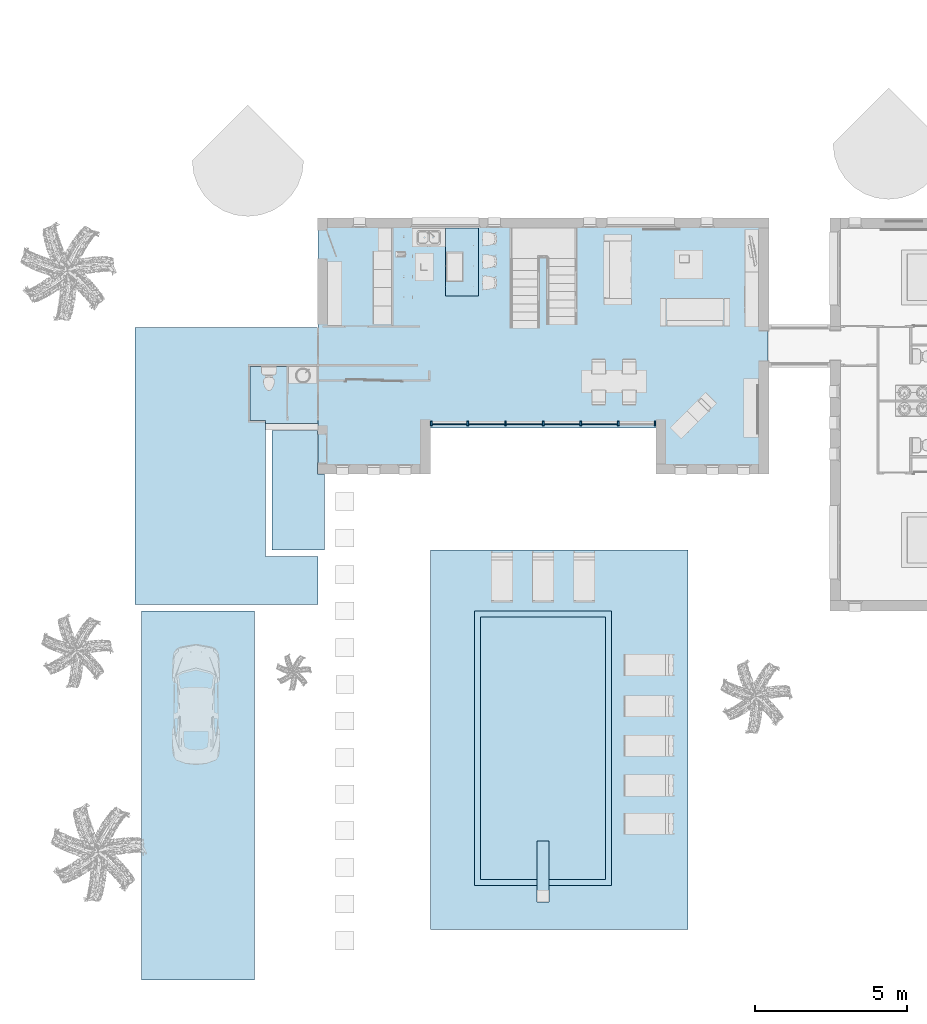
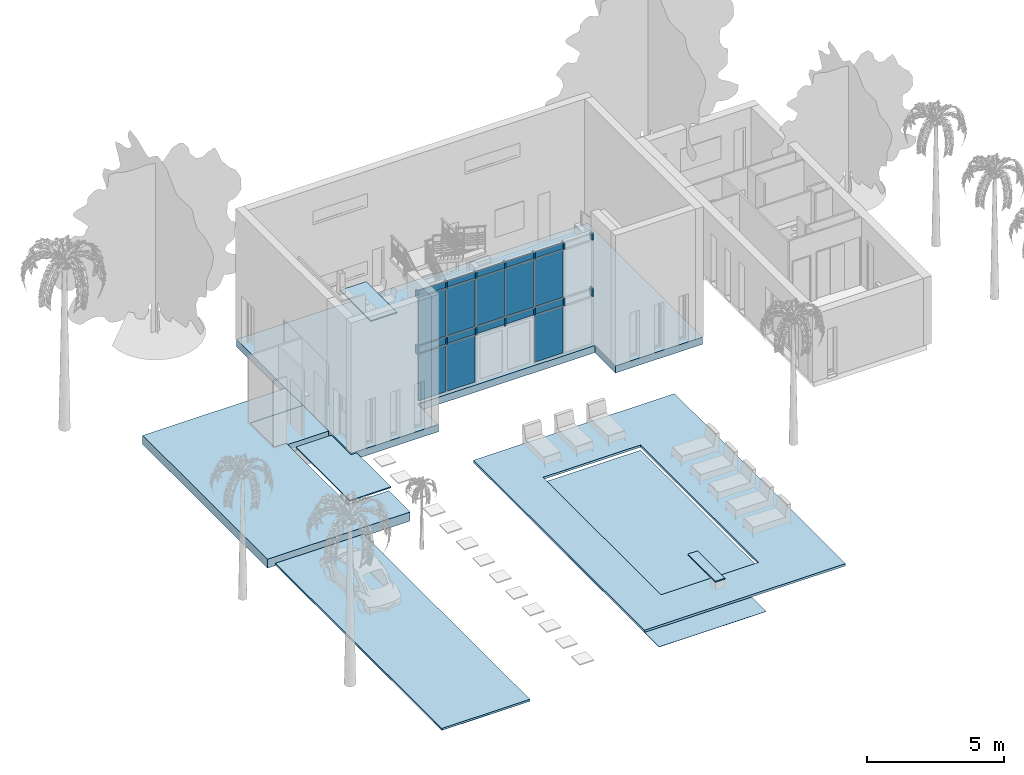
# One storey, part 2 of 40: 18 plates, 14 members, 11 slabs, 1 opening, 1 element without a shape of its own.
"""IFC2X3 building model written with IfcOpenShell, lengths in metres."""

from ifc_helpers import new_model, entity, si_unit, converted_unit, derived_unit, direction, frame, frame_2d, origin, origin_2d_with_axis, place, context, subcontext, project, spatial, polyline, rectangle, outline, extrude, source, transform, mapped, material, layer, layer_set, layer_usage, type_object, type_shapes, element, aggregate, save


model = new_model("IFC2X3")

# Units and contexts
model_context = context("Model", 3, precision=1e-05, world=origin(), true_north=direction((6.12303176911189e-17, 1.0)))
body_context = subcontext(model_context, "Body", "Model", "MODEL_VIEW")
ifc_project = project(units=[si_unit("LENGTHUNIT", "METRE"), si_unit("AREAUNIT", "SQUARE_METRE"), si_unit("VOLUMEUNIT", "CUBIC_METRE"), converted_unit("PLANEANGLEUNIT", "DEGREE", entity("IfcRatioMeasure", 0.0174532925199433), si_unit("PLANEANGLEUNIT", "RADIAN"), dimensions=[0, 0, 0, 0, 0, 0, 0]), si_unit("MASSUNIT", "GRAM", prefix="KILO"), derived_unit("MASSDENSITYUNIT", [(si_unit("MASSUNIT", "GRAM", prefix="KILO"), 1), (si_unit("LENGTHUNIT", "METRE"), -3)]), si_unit("TIMEUNIT", "SECOND"), si_unit("FREQUENCYUNIT", "HERTZ"), si_unit("THERMODYNAMICTEMPERATUREUNIT", "DEGREE_CELSIUS"), derived_unit("THERMALTRANSMITTANCEUNIT", [(si_unit("MASSUNIT", "GRAM", prefix="KILO"), 1), (si_unit("THERMODYNAMICTEMPERATUREUNIT", "KELVIN"), -1), (si_unit("TIMEUNIT", "SECOND"), -3)]), derived_unit("VOLUMETRICFLOWRATEUNIT", [(si_unit("LENGTHUNIT", "METRE"), 3), (si_unit("TIMEUNIT", "SECOND"), -1)]), si_unit("ELECTRICCURRENTUNIT", "AMPERE"), si_unit("ELECTRICVOLTAGEUNIT", "VOLT"), si_unit("POWERUNIT", "WATT"), si_unit("FORCEUNIT", "NEWTON", prefix="KILO"), si_unit("ILLUMINANCEUNIT", "LUX"), si_unit("LUMINOUSFLUXUNIT", "LUMEN"), si_unit("LUMINOUSINTENSITYUNIT", "CANDELA"), derived_unit("USERDEFINED", [(si_unit("MASSUNIT", "GRAM", prefix="KILO"), -1), (si_unit("LENGTHUNIT", "METRE"), -2), (si_unit("TIMEUNIT", "SECOND"), 3), (si_unit("LUMINOUSFLUXUNIT", "LUMEN"), 1)]), derived_unit("LINEARVELOCITYUNIT", [(si_unit("LENGTHUNIT", "METRE"), 1), (si_unit("TIMEUNIT", "SECOND"), -1)]), si_unit("PRESSUREUNIT", "PASCAL"), derived_unit("USERDEFINED", [(si_unit("LENGTHUNIT", "METRE"), -2), (si_unit("MASSUNIT", "GRAM", prefix="KILO"), 1), (si_unit("TIMEUNIT", "SECOND"), -2)])], contexts=[model_context])

# Site, building, storey
site_placement = place(None, origin())
site = spatial("IfcSite", under=ifc_project, at=site_placement, Name="Surface", CompositionType="ELEMENT")
building_placement = place(site_placement, origin())
building = spatial("IfcBuilding", under=site, at=building_placement, CompositionType="ELEMENT")
storey_placement = place(building_placement, origin())
storey = spatial("IfcBuildingStorey", under=building, at=storey_placement, Name="RDC", CompositionType="ELEMENT", Elevation=-1.0941605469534e-13)

# Curtain wall, members, plates
curtain_wall_type = type_object("IfcCurtainWallType", Name="Mur-rideau:Simple panneau", PredefinedType="NOTDEFINED")
curtain_wall_placement = place(storey_placement, origin())
curtain_wall = element("IfcCurtainWall", 1, at=curtain_wall_placement, inside=storey, type_object=curtain_wall_type, Name="Mur-rideau:Simple panneau", ObjectType="Mur-rideau:Simple panneau")
ifc_material_1 = material(Name="Plastique, blanc opaque")
member_type_1 = type_object("IfcMemberType", Name="80 x 150", PredefinedType="MEMBER")
shared_shape_1 = source(origin(), body_context, "Body", "SweptSolid", [
    extrude(rectangle(XDim=0.15, YDim=0.06, at=origin_2d_with_axis()), frame((-0.03, 0.0, -0.35), z_axis=(0.0, 0.0, 1.0), x_axis=(0.0, -1.0, 0.0)), (0.0, 0.0, 1.0), 0.35),
])
type_shapes(member_type_1, [shared_shape_1])
member_1_placement = place(storey_placement, frame((-1.3024888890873, 1.13701067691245, 2.49999999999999), z_axis=(0.0, 0.0, 1.0), x_axis=(-1.0, 0.0, 0.0)))
member_1 = element("IfcMember", 2, at=member_1_placement, type_object=member_type_1, material=ifc_material_1, Name="Meneau rectangulaire:80 x 150", ObjectType="80 x 150", context=body_context, shape_type="MappedRepresentation", body=[
    mapped(shared_shape_1, transform((0.0, 0.0, 0.0), scale=1.0)),
])
member_type_2 = type_object("IfcMemberType", Name="80 x 150", PredefinedType="MEMBER")
shared_shape_2 = source(origin(), body_context, "Body", "SweptSolid", [
    extrude(rectangle(XDim=0.15, YDim=0.06, at=origin_2d_with_axis()), frame((-0.03, 0.0, -0.29), z_axis=(0.0, 0.0, 1.0), x_axis=(0.0, -1.0, 0.0)), (0.0, 0.0, 1.0), 0.29),
])
type_shapes(member_type_2, [shared_shape_2])
member_2_placement = place(storey_placement, frame((-1.3024888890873, 1.13701067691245, 4.93999999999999), z_axis=(0.0, 0.0, 1.0), x_axis=(-1.0, 0.0, 0.0)))
member_2 = element("IfcMember", 3, at=member_2_placement, type_object=member_type_2, material=ifc_material_1, Name="Meneau rectangulaire:80 x 150", ObjectType="80 x 150", context=body_context, shape_type="MappedRepresentation", body=[
    mapped(shared_shape_2, transform((0.0, 0.0, 0.0), scale=1.0)),
])
member_type_3 = type_object("IfcMemberType", Name="80 x 150", PredefinedType="MEMBER")
shared_shape_3 = source(origin(), body_context, "Body", "SweptSolid", [
    extrude(rectangle(XDim=0.15, YDim=0.06, at=origin_2d_with_axis()), frame((0.0, 0.0, -0.29), z_axis=(0.0, 0.0, 1.0), x_axis=(0.0, -1.0, 0.0)), (0.0, 0.0, 1.0), 0.29),
])
type_shapes(member_type_3, [shared_shape_3])
member_3_placement = place(storey_placement, frame((-0.0691555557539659, 1.13701067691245, 4.64999999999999), z_axis=(0.0, 0.0, -1.0), x_axis=(1.0, 0.0, 0.0)))
member_3 = element("IfcMember", 4, at=member_3_placement, type_object=member_type_3, material=ifc_material_1, Name="Meneau rectangulaire:80 x 150", ObjectType="80 x 150", context=body_context, shape_type="MappedRepresentation", body=[
    mapped(shared_shape_3, transform((0.0, 0.0, 0.0), scale=1.0)),
])
member_4_placement = place(storey_placement, frame((1.16417777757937, 1.13701067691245, 4.64999999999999), z_axis=(0.0, 0.0, -1.0), x_axis=(1.0, 0.0, 0.0)))
member_4 = element("IfcMember", 5, at=member_4_placement, type_object=member_type_3, material=ifc_material_1, Name="Meneau rectangulaire:80 x 150", ObjectType="80 x 150", context=body_context, shape_type="MappedRepresentation", body=[
    mapped(shared_shape_3, transform((0.0, 0.0, 0.0), scale=1.0)),
])
member_5_placement = place(storey_placement, frame((2.3975111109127, 1.13701067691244, 4.64999999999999), z_axis=(0.0, 0.0, -1.0), x_axis=(1.0, 0.0, 0.0)))
member_5 = element("IfcMember", 6, at=member_5_placement, type_object=member_type_3, material=ifc_material_1, Name="Meneau rectangulaire:80 x 150", ObjectType="80 x 150", context=body_context, shape_type="MappedRepresentation", body=[
    mapped(shared_shape_3, transform((0.0, 0.0, 0.0), scale=1.0)),
])
member_6_placement = place(storey_placement, frame((3.63084444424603, 1.13701067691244, 4.64999999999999), z_axis=(0.0, 0.0, -1.0), x_axis=(1.0, 0.0, 0.0)))
member_6 = element("IfcMember", 7, at=member_6_placement, type_object=member_type_3, material=ifc_material_1, Name="Meneau rectangulaire:80 x 150", ObjectType="80 x 150", context=body_context, shape_type="MappedRepresentation", body=[
    mapped(shared_shape_3, transform((0.0, 0.0, 0.0), scale=1.0)),
])
member_7_placement = place(storey_placement, frame((4.86417777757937, 1.13701067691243, 4.64999999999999), z_axis=(0.0, 0.0, -1.0), x_axis=(1.0, 0.0, 0.0)))
member_7 = element("IfcMember", 8, at=member_7_placement, type_object=member_type_3, material=ifc_material_1, Name="Meneau rectangulaire:80 x 150", ObjectType="80 x 150", context=body_context, shape_type="MappedRepresentation", body=[
    mapped(shared_shape_3, transform((0.0, 0.0, 0.0), scale=1.0)),
])
member_type_4 = type_object("IfcMemberType", Name="80 x 150", PredefinedType="MEMBER")
shared_shape_4 = source(origin(), body_context, "Body", "SweptSolid", [
    extrude(rectangle(XDim=0.15, YDim=0.06, at=origin_2d_with_axis()), frame((0.0, 0.0, -0.35), z_axis=(0.0, 0.0, 1.0), x_axis=(0.0, -1.0, 0.0)), (0.0, 0.0, 1.0), 0.35),
])
type_shapes(member_type_4, [shared_shape_4])
member_8_placement = place(storey_placement, frame((-0.0691555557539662, 1.13701067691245, 2.14999999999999), z_axis=(0.0, 0.0, -1.0), x_axis=(1.0, 0.0, 0.0)))
member_8 = element("IfcMember", 9, at=member_8_placement, type_object=member_type_4, material=ifc_material_1, Name="Meneau rectangulaire:80 x 150", ObjectType="80 x 150", context=body_context, shape_type="MappedRepresentation", body=[
    mapped(shared_shape_4, transform((0.0, 0.0, 0.0), scale=1.0)),
])
member_9_placement = place(storey_placement, frame((1.16417777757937, 1.13701067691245, 2.14999999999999), z_axis=(0.0, 0.0, -1.0), x_axis=(1.0, 0.0, 0.0)))
member_9 = element("IfcMember", 10, at=member_9_placement, type_object=member_type_4, material=ifc_material_1, Name="Meneau rectangulaire:80 x 150", ObjectType="80 x 150", context=body_context, shape_type="MappedRepresentation", body=[
    mapped(shared_shape_4, transform((0.0, 0.0, 0.0), scale=1.0)),
])
member_10_placement = place(storey_placement, frame((3.63084444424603, 1.13701067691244, 2.14999999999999), z_axis=(0.0, 0.0, -1.0), x_axis=(1.0, 0.0, 0.0)))
member_10 = element("IfcMember", 11, at=member_10_placement, type_object=member_type_4, material=ifc_material_1, Name="Meneau rectangulaire:80 x 150", ObjectType="80 x 150", context=body_context, shape_type="MappedRepresentation", body=[
    mapped(shared_shape_4, transform((0.0, 0.0, 0.0), scale=1.0)),
])
member_11_placement = place(storey_placement, frame((4.86417777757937, 1.13701067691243, 2.14999999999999), z_axis=(0.0, 0.0, -1.0), x_axis=(1.0, 0.0, 0.0)))
member_11 = element("IfcMember", 12, at=member_11_placement, type_object=member_type_4, material=ifc_material_1, Name="Meneau rectangulaire:80 x 150", ObjectType="80 x 150", context=body_context, shape_type="MappedRepresentation", body=[
    mapped(shared_shape_4, transform((0.0, 0.0, 0.0), scale=1.0)),
])
member_type_5 = type_object("IfcMemberType", Name="80 x 150", PredefinedType="MEMBER")
shared_shape_5 = source(origin(), body_context, "Body", "SweptSolid", [
    extrude(rectangle(XDim=0.15, YDim=0.06, at=origin_2d_with_axis()), frame((0.0, 0.0, -0.38), z_axis=(0.0, 0.0, 1.0), x_axis=(0.0, -1.0, 0.0)), (0.0, 0.0, 1.0), 0.38),
])
type_shapes(member_type_5, [shared_shape_5])
member_12_placement = place(storey_placement, frame((2.3975111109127, 1.13701067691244, 2.11999999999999), z_axis=(0.0, 0.0, -1.0), x_axis=(1.0, 0.0, 0.0)))
member_12 = element("IfcMember", 13, at=member_12_placement, type_object=member_type_5, material=ifc_material_1, Name="Meneau rectangulaire:80 x 150", ObjectType="80 x 150", context=body_context, shape_type="MappedRepresentation", body=[
    mapped(shared_shape_5, transform((0.0, 0.0, 0.0), scale=1.0)),
])
member_type_6 = type_object("IfcMemberType", Name="80 x 150", PredefinedType="MEMBER")
shared_shape_6 = source(origin(), body_context, "Body", "SweptSolid", [
    extrude(rectangle(XDim=0.15, YDim=0.06, at=origin_2d_with_axis()), frame((-0.03, 0.0, -0.29), z_axis=(0.0, 0.0, 1.0), x_axis=(0.0, -1.0, 0.0)), (0.0, 0.0, 1.0), 0.29),
])
type_shapes(member_type_6, [shared_shape_6])
member_13_placement = place(storey_placement, frame((6.0975111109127, 1.13701067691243, 4.64999999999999), z_axis=(0.0, 0.0, -1.0), x_axis=(1.0, 0.0, 0.0)))
member_13 = element("IfcMember", 14, at=member_13_placement, type_object=member_type_6, material=ifc_material_1, Name="Meneau rectangulaire:80 x 150", ObjectType="80 x 150", context=body_context, shape_type="MappedRepresentation", body=[
    mapped(shared_shape_6, transform((0.0, 0.0, 0.0), scale=1.0)),
])
member_type_7 = type_object("IfcMemberType", Name="80 x 150", PredefinedType="MEMBER")
shared_shape_7 = source(origin(), body_context, "Body", "SweptSolid", [
    extrude(rectangle(XDim=0.15, YDim=0.06, at=origin_2d_with_axis()), frame((-0.03, 0.0, -0.35), z_axis=(0.0, 0.0, 1.0), x_axis=(0.0, -1.0, 0.0)), (0.0, 0.0, 1.0), 0.35),
])
type_shapes(member_type_7, [shared_shape_7])
member_14_placement = place(storey_placement, frame((6.0975111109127, 1.13701067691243, 2.14999999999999), z_axis=(0.0, 0.0, -1.0), x_axis=(1.0, 0.0, 0.0)))
member_14 = element("IfcMember", 15, at=member_14_placement, type_object=member_type_7, material=ifc_material_1, Name="Meneau rectangulaire:80 x 150", ObjectType="80 x 150", context=body_context, shape_type="MappedRepresentation", body=[
    mapped(shared_shape_7, transform((0.0, 0.0, 0.0), scale=1.0)),
])
ifc_material_2 = material(Name="Verre")
ifc_layer_1 = layer(ifc_material_2, 0.04)
ifc_layer_set_1 = layer_set([ifc_layer_1], Name="Mur-rideau:Simple panneau")
ifc_layer_usage_1 = layer_usage(ifc_layer_set_1, "AXIS3", "POSITIVE", 0.0820209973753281)
plate_type_1 = type_object("IfcPlateType", Name="Vitré", PredefinedType="CURTAIN_PANEL", material=ifc_layer_set_1)
shared_shape_8 = source(origin(), body_context, "Body", "SweptSolid", [
    extrude(rectangle(XDim=0.04, YDim=1.14333333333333, at=origin_2d_with_axis()), frame((0.0, -0.025, 0.0), z_axis=(0.0, 0.0, 1.0), x_axis=(0.0, 1.0, 0.0)), (0.0, 0.0, 1.0), 2.06),
])
type_shapes(plate_type_1, [shared_shape_8])
plate_1_placement = place(curtain_wall_placement, frame((-0.670822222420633, 1.13701067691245, 0.0599999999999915)))
plate_1 = element("IfcPlate", 16, at=plate_1_placement, type_object=plate_type_1, material=ifc_layer_usage_1, Name="Panneau système:Vitré", ObjectType="Vitré", context=body_context, shape_type="MappedRepresentation", body=[
    mapped(shared_shape_8, transform((0.0, 0.0, 0.0), scale=1.0)),
])
ifc_layer_usage_2 = layer_usage(ifc_layer_set_1, "AXIS3", "POSITIVE", 0.0820209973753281)
plate_type_2 = type_object("IfcPlateType", Name="Vitré", PredefinedType="CURTAIN_PANEL", material=ifc_layer_set_1)
shared_shape_9 = source(origin(), body_context, "Body", "SweptSolid", [
    extrude(rectangle(XDim=0.04, YDim=1.17333333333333, at=origin_2d_with_axis()), frame((0.0, -0.025, 0.0), z_axis=(0.0, 0.0, 1.0), x_axis=(0.0, 1.0, 0.0)), (0.0, 0.0, 1.0), 2.06),
])
type_shapes(plate_type_2, [shared_shape_9])
plate_2_placement = place(curtain_wall_placement, frame((0.5475111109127, 1.13701067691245, 0.0599999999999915)))
plate_2 = element("IfcPlate", 17, at=plate_2_placement, type_object=plate_type_2, material=ifc_layer_usage_2, Name="Panneau système:Vitré", ObjectType="Vitré", context=body_context, shape_type="MappedRepresentation", body=[
    mapped(shared_shape_9, transform((0.0, 0.0, 0.0), scale=1.0)),
])
ifc_layer_usage_3 = layer_usage(ifc_layer_set_1, "AXIS3", "POSITIVE", 0.0820209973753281)
plate_3_placement = place(curtain_wall_placement, frame((4.2475111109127, 1.13701067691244, 0.0599999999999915)))
plate_3 = element("IfcPlate", 18, at=plate_3_placement, type_object=plate_type_2, material=ifc_layer_usage_3, Name="Panneau système:Vitré", ObjectType="Vitré", context=body_context, shape_type="MappedRepresentation", body=[
    mapped(shared_shape_9, transform((0.0, 0.0, 0.0), scale=1.0)),
])
ifc_layer_usage_4 = layer_usage(ifc_layer_set_1, "AXIS3", "POSITIVE", 0.0820209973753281)
plate_type_3 = type_object("IfcPlateType", Name="Vitré", PredefinedType="CURTAIN_PANEL", material=ifc_layer_set_1)
shared_shape_10 = source(origin(), body_context, "Body", "SweptSolid", [
    extrude(rectangle(XDim=0.04, YDim=1.14333333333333, at=origin_2d_with_axis()), frame((0.0, -0.025, 0.0), z_axis=(0.0, 0.0, 1.0), x_axis=(0.0, 1.0, 0.0)), (0.0, 0.0, 1.0), 0.29),
])
type_shapes(plate_type_3, [shared_shape_10])
plate_4_placement = place(curtain_wall_placement, frame((-0.670822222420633, 1.13701067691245, 2.17999999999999)))
plate_4 = element("IfcPlate", 19, at=plate_4_placement, type_object=plate_type_3, material=ifc_layer_usage_4, Name="Panneau système:Vitré", ObjectType="Vitré", context=body_context, shape_type="MappedRepresentation", body=[
    mapped(shared_shape_10, transform((0.0, 0.0, 0.0), scale=1.0)),
])
ifc_layer_usage_5 = layer_usage(ifc_layer_set_1, "AXIS3", "POSITIVE", 0.0820209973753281)
plate_type_4 = type_object("IfcPlateType", Name="Vitré", PredefinedType="CURTAIN_PANEL", material=ifc_layer_set_1)
shared_shape_11 = source(origin(), body_context, "Body", "SweptSolid", [
    extrude(rectangle(XDim=0.04, YDim=1.17333333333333, at=origin_2d_with_axis()), frame((0.0, -0.025, 0.0), z_axis=(0.0, 0.0, 1.0), x_axis=(0.0, 1.0, 0.0)), (0.0, 0.0, 1.0), 0.29),
])
type_shapes(plate_type_4, [shared_shape_11])
plate_5_placement = place(curtain_wall_placement, frame((0.5475111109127, 1.13701067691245, 2.17999999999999)))
plate_5 = element("IfcPlate", 20, at=plate_5_placement, type_object=plate_type_4, material=ifc_layer_usage_5, Name="Panneau système:Vitré", ObjectType="Vitré", context=body_context, shape_type="MappedRepresentation", body=[
    mapped(shared_shape_11, transform((0.0, 0.0, 0.0), scale=1.0)),
])
ifc_layer_usage_6 = layer_usage(ifc_layer_set_1, "AXIS3", "POSITIVE", 0.0820209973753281)
plate_6_placement = place(curtain_wall_placement, frame((1.78084444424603, 1.13701067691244, 2.17999999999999)))
plate_6 = element("IfcPlate", 21, at=plate_6_placement, type_object=plate_type_4, material=ifc_layer_usage_6, Name="Panneau système:Vitré", ObjectType="Vitré", context=body_context, shape_type="MappedRepresentation", body=[
    mapped(shared_shape_11, transform((0.0, 0.0, 0.0), scale=1.0)),
])
ifc_layer_usage_7 = layer_usage(ifc_layer_set_1, "AXIS3", "POSITIVE", 0.0820209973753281)
plate_7_placement = place(curtain_wall_placement, frame((3.01417777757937, 1.13701067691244, 2.17999999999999)))
plate_7 = element("IfcPlate", 22, at=plate_7_placement, type_object=plate_type_4, material=ifc_layer_usage_7, Name="Panneau système:Vitré", ObjectType="Vitré", context=body_context, shape_type="MappedRepresentation", body=[
    mapped(shared_shape_11, transform((0.0, 0.0, 0.0), scale=1.0)),
])
ifc_layer_usage_8 = layer_usage(ifc_layer_set_1, "AXIS3", "POSITIVE", 0.0820209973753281)
plate_8_placement = place(curtain_wall_placement, frame((4.2475111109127, 1.13701067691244, 2.17999999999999)))
plate_8 = element("IfcPlate", 23, at=plate_8_placement, type_object=plate_type_4, material=ifc_layer_usage_8, Name="Panneau système:Vitré", ObjectType="Vitré", context=body_context, shape_type="MappedRepresentation", body=[
    mapped(shared_shape_11, transform((0.0, 0.0, 0.0), scale=1.0)),
])
ifc_layer_usage_9 = layer_usage(ifc_layer_set_1, "AXIS3", "POSITIVE", 0.0820209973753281)
plate_type_5 = type_object("IfcPlateType", Name="Vitré", PredefinedType="CURTAIN_PANEL", material=ifc_layer_set_1)
shared_shape_12 = source(origin(), body_context, "Body", "SweptSolid", [
    extrude(rectangle(XDim=0.04, YDim=1.14333333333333, at=origin_2d_with_axis()), frame((0.0, -0.025, 0.0), z_axis=(0.0, 0.0, 1.0), x_axis=(0.0, 1.0, 0.0)), (0.0, 0.0, 1.0), 2.09),
])
type_shapes(plate_type_5, [shared_shape_12])
plate_9_placement = place(curtain_wall_placement, frame((-0.670822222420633, 1.13701067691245, 2.52999999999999)))
plate_9 = element("IfcPlate", 24, at=plate_9_placement, type_object=plate_type_5, material=ifc_layer_usage_9, Name="Panneau système:Vitré", ObjectType="Vitré", context=body_context, shape_type="MappedRepresentation", body=[
    mapped(shared_shape_12, transform((0.0, 0.0, 0.0), scale=1.0)),
])
ifc_layer_usage_10 = layer_usage(ifc_layer_set_1, "AXIS3", "POSITIVE", 0.0820209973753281)
plate_type_6 = type_object("IfcPlateType", Name="Vitré", PredefinedType="CURTAIN_PANEL", material=ifc_layer_set_1)
shared_shape_13 = source(origin(), body_context, "Body", "SweptSolid", [
    extrude(rectangle(XDim=0.04, YDim=1.17333333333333, at=origin_2d_with_axis()), frame((0.0, -0.025, 0.0), z_axis=(0.0, 0.0, 1.0), x_axis=(0.0, 1.0, 0.0)), (0.0, 0.0, 1.0), 2.09),
])
type_shapes(plate_type_6, [shared_shape_13])
plate_10_placement = place(curtain_wall_placement, frame((0.5475111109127, 1.13701067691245, 2.52999999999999)))
plate_10 = element("IfcPlate", 25, at=plate_10_placement, type_object=plate_type_6, material=ifc_layer_usage_10, Name="Panneau système:Vitré", ObjectType="Vitré", context=body_context, shape_type="MappedRepresentation", body=[
    mapped(shared_shape_13, transform((0.0, 0.0, 0.0), scale=1.0)),
])
ifc_layer_usage_11 = layer_usage(ifc_layer_set_1, "AXIS3", "POSITIVE", 0.0820209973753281)
plate_11_placement = place(curtain_wall_placement, frame((1.78084444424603, 1.13701067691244, 2.52999999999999)))
plate_11 = element("IfcPlate", 26, at=plate_11_placement, type_object=plate_type_6, material=ifc_layer_usage_11, Name="Panneau système:Vitré", ObjectType="Vitré", context=body_context, shape_type="MappedRepresentation", body=[
    mapped(shared_shape_13, transform((0.0, 0.0, 0.0), scale=1.0)),
])
ifc_layer_usage_12 = layer_usage(ifc_layer_set_1, "AXIS3", "POSITIVE", 0.0820209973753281)
plate_12_placement = place(curtain_wall_placement, frame((3.01417777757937, 1.13701067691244, 2.52999999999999)))
plate_12 = element("IfcPlate", 27, at=plate_12_placement, type_object=plate_type_6, material=ifc_layer_usage_12, Name="Panneau système:Vitré", ObjectType="Vitré", context=body_context, shape_type="MappedRepresentation", body=[
    mapped(shared_shape_13, transform((0.0, 0.0, 0.0), scale=1.0)),
])
ifc_layer_usage_13 = layer_usage(ifc_layer_set_1, "AXIS3", "POSITIVE", 0.0820209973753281)
plate_13_placement = place(curtain_wall_placement, frame((4.2475111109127, 1.13701067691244, 2.52999999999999)))
plate_13 = element("IfcPlate", 28, at=plate_13_placement, type_object=plate_type_6, material=ifc_layer_usage_13, Name="Panneau système:Vitré", ObjectType="Vitré", context=body_context, shape_type="MappedRepresentation", body=[
    mapped(shared_shape_13, transform((0.0, 0.0, 0.0), scale=1.0)),
])
ifc_layer_usage_14 = layer_usage(ifc_layer_set_1, "AXIS3", "POSITIVE", 0.0820209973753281)
plate_type_7 = type_object("IfcPlateType", Name="Vitré", PredefinedType="CURTAIN_PANEL", material=ifc_layer_set_1)
shared_shape_14 = source(origin(), body_context, "Body", "SweptSolid", [
    extrude(rectangle(XDim=0.04, YDim=1.14333333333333, at=origin_2d_with_axis()), frame((0.0, -0.025, 0.0), z_axis=(0.0, 0.0, 1.0), x_axis=(0.0, 1.0, 0.0)), (0.0, 0.0, 1.0), 0.259999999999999),
])
type_shapes(plate_type_7, [shared_shape_14])
plate_14_placement = place(curtain_wall_placement, frame((-0.670822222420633, 1.13701067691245, 4.67999999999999)))
plate_14 = element("IfcPlate", 29, at=plate_14_placement, type_object=plate_type_7, material=ifc_layer_usage_14, Name="Panneau système:Vitré", ObjectType="Vitré", context=body_context, shape_type="MappedRepresentation", body=[
    mapped(shared_shape_14, transform((0.0, 0.0, 0.0), scale=1.0)),
])
ifc_layer_usage_15 = layer_usage(ifc_layer_set_1, "AXIS3", "POSITIVE", 0.0820209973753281)
plate_type_8 = type_object("IfcPlateType", Name="Vitré", PredefinedType="CURTAIN_PANEL", material=ifc_layer_set_1)
shared_shape_15 = source(origin(), body_context, "Body", "SweptSolid", [
    extrude(rectangle(XDim=0.04, YDim=1.17333333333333, at=origin_2d_with_axis()), frame((0.0, -0.025, 0.0), z_axis=(0.0, 0.0, 1.0), x_axis=(0.0, 1.0, 0.0)), (0.0, 0.0, 1.0), 0.259999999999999),
])
type_shapes(plate_type_8, [shared_shape_15])
plate_15_placement = place(curtain_wall_placement, frame((0.5475111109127, 1.13701067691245, 4.67999999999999)))
plate_15 = element("IfcPlate", 30, at=plate_15_placement, type_object=plate_type_8, material=ifc_layer_usage_15, Name="Panneau système:Vitré", ObjectType="Vitré", context=body_context, shape_type="MappedRepresentation", body=[
    mapped(shared_shape_15, transform((0.0, 0.0, 0.0), scale=1.0)),
])
ifc_layer_usage_16 = layer_usage(ifc_layer_set_1, "AXIS3", "POSITIVE", 0.0820209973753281)
plate_16_placement = place(curtain_wall_placement, frame((1.78084444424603, 1.13701067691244, 4.67999999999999)))
plate_16 = element("IfcPlate", 31, at=plate_16_placement, type_object=plate_type_8, material=ifc_layer_usage_16, Name="Panneau système:Vitré", ObjectType="Vitré", context=body_context, shape_type="MappedRepresentation", body=[
    mapped(shared_shape_15, transform((0.0, 0.0, 0.0), scale=1.0)),
])
ifc_layer_usage_17 = layer_usage(ifc_layer_set_1, "AXIS3", "POSITIVE", 0.0820209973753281)
plate_17_placement = place(curtain_wall_placement, frame((3.01417777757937, 1.13701067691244, 4.67999999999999)))
plate_17 = element("IfcPlate", 32, at=plate_17_placement, type_object=plate_type_8, material=ifc_layer_usage_17, Name="Panneau système:Vitré", ObjectType="Vitré", context=body_context, shape_type="MappedRepresentation", body=[
    mapped(shared_shape_15, transform((0.0, 0.0, 0.0), scale=1.0)),
])
ifc_layer_usage_18 = layer_usage(ifc_layer_set_1, "AXIS3", "POSITIVE", 0.0820209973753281)
plate_18_placement = place(curtain_wall_placement, frame((4.2475111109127, 1.13701067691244, 4.67999999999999)))
plate_18 = element("IfcPlate", 33, at=plate_18_placement, type_object=plate_type_8, material=ifc_layer_usage_18, Name="Panneau système:Vitré", ObjectType="Vitré", context=body_context, shape_type="MappedRepresentation", body=[
    mapped(shared_shape_15, transform((0.0, 0.0, 0.0), scale=1.0)),
])
aggregate(curtain_wall, [plate_1, plate_2, plate_3, plate_4, plate_5, plate_6, plate_7, plate_8, plate_9, plate_10, plate_11, plate_12, plate_13, plate_14, plate_15, plate_16, plate_17, plate_18, member_1, member_2, member_3, member_8, member_4, member_9, member_5, member_12, member_6, member_10, member_7, member_11, member_13, member_14])

# Slabs
ifc_material_3 = material(Name="Maçonnerie - Béton")
ifc_layer_2 = layer(ifc_material_3, 0.15)
ifc_material_4 = material(Name="Sable")
ifc_layer_3 = layer(ifc_material_4, 0.05)
ifc_material_5 = material(Name="Tout venant")
ifc_layer_4 = layer(ifc_material_5, 0.2)
ifc_layer_set_2 = layer_set([ifc_layer_2, ifc_layer_3, ifc_layer_4], Name="Sol:Dallage garage")
ifc_layer_usage_19 = layer_usage(ifc_layer_set_2, "AXIS3", "POSITIVE", 0.0)
slab_1_placement = place(storey_placement, origin())
element("IfcSlab", 34, at=slab_1_placement, inside=storey, material=ifc_layer_usage_19, Name="Sol:Dallage garage", ObjectType="Sol:Dallage garage", PredefinedType="FLOOR", context=body_context, shape_type="SweptSolid", body=[
    extrude(outline(polyline([(-4.89199999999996, -4.00999999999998), (4.17800000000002, -4.00999999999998), (4.17800000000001, 1.99), (2.90799999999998, 1.99), (2.90799999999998, -0.240000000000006), (1.13799999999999, -0.240000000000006), (1.13799999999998, 0.269999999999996), (-3.33200000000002, 0.269999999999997), (-3.33200000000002, 1.99), (-4.89199999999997, 1.99), (-4.89199999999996, -4.00999999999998)])), frame((-6.9724888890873, 0.0990106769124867, 0.0), z_axis=(0.0, 0.0, -1.0), x_axis=(0.0, 1.0, 0.0)), (0.0, 0.0, 1.0), 0.4),
])
ifc_material_6 = material(Name="Parquet bois")
ifc_layer_5 = layer(ifc_material_6, 0.02)
ifc_material_7 = material(Name="Chape")
ifc_layer_6 = layer(ifc_material_7, 0.05)
ifc_material_8 = material(Name="Maçonnerie - Isolant")
ifc_layer_7 = layer(ifc_material_8, 0.05)
ifc_layer_8 = layer(ifc_material_3, 0.2)
ifc_layer_set_3 = layer_set([ifc_layer_5, ifc_layer_6, ifc_layer_7, ifc_layer_8], Name="Sol:S5 Plancher flottant habitable")
ifc_layer_usage_20 = layer_usage(ifc_layer_set_3, "AXIS3", "POSITIVE", 0.0)
slab_2_placement = place(storey_placement, origin())
element("IfcSlab", 35, at=slab_2_placement, inside=storey, material=ifc_layer_usage_20, Name="Sol:S5 Plancher flottant habitable", ObjectType="Sol:S5 Plancher flottant habitable", PredefinedType="FLOOR", context=body_context, shape_type="SweptSolid", body=[
    extrude(outline(polyline([(-7.38125000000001, -5.8925), (7.37374999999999, -5.8925), (7.37375, 2.4625), (3.72375, 2.4625), (3.72375, 0.9675), (-3.71625, 0.9675), (-3.71625, 2.4625), (-7.38125, 2.4625), (-7.38125000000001, -5.8925)])), frame((2.39643037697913, 1.9606320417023, 0.0), z_axis=(0.0, 0.0, -1.0), x_axis=(1.0, 0.0, 0.0)), (0.0, 0.0, 1.0), 0.32),
])
ifc_material_9 = material(Name="Graviers blanc")
ifc_layer_9 = layer(ifc_material_9, 0.08)
ifc_layer_set_4 = layer_set([ifc_layer_9], Name="Sol:Sol acces garage graviers")
ifc_layer_usage_21 = layer_usage(ifc_layer_set_4, "AXIS3", "POSITIVE", 0.0)
slab_3_placement = place(storey_placement, origin())
element("IfcSlab", 36, at=slab_3_placement, inside=storey, material=ifc_layer_usage_21, Name="Sol:Sol acces garage graviers", ObjectType="Sol:Sol acces garage graviers", PredefinedType="FLOOR", context=body_context, shape_type="SweptSolid", body=[
    extrude(rectangle(XDim=12.1, YDim=3.7, at=frame_2d((0.0, -5.55111512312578e-16), x_axis=(1.0, 0.0))), frame((-8.9174888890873, -11.0629893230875, -0.120000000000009), z_axis=(0.0, 0.0, -1.0), x_axis=(0.0, 1.0, 0.0)), (0.0, 0.0, 1.0), 0.08),
])
ifc_material_10 = material(Name="Terre")
ifc_layer_10 = layer(ifc_material_10, 0.01)
ifc_layer_set_5 = layer_set([ifc_layer_10], Name="Terre-plein:Terre - plein terre 1 cm")
ifc_layer_usage_22 = layer_usage(ifc_layer_set_5, "AXIS3", "NEGATIVE", 0.0)
slab_4_placement = place(storey_placement, origin())
element("IfcSlab", 37, at=slab_4_placement, inside=storey, material=ifc_layer_usage_22, Name="Terre-plein:Terre - plein terre 1 cm", ObjectType="Terre-plein:Terre - plein terre 1 cm", PredefinedType="FLOOR", context=body_context, shape_type="SweptSolid", body=[
    extrude(rectangle(XDim=12.1, YDim=3.7, at=frame_2d((0.0, -5.55111512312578e-16), x_axis=(1.0, 0.0))), frame((-8.9174888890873, -11.0629893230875, -0.210000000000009), z_axis=(0.0, 0.0, 1.0), x_axis=(0.0, 1.0, 0.0)), (0.0, 0.0, 1.0), 0.00999999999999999),
])
ifc_material_11 = material(Name="Pierre beige")
ifc_layer_11 = layer(ifc_material_11, 0.05)
ifc_layer_set_6 = layer_set([ifc_layer_11], Name="Sol:Dalle pierre acces pieton")
ifc_layer_usage_23 = layer_usage(ifc_layer_set_6, "AXIS3", "POSITIVE", 0.0)
slab_5_placement = place(storey_placement, origin())
element("IfcSlab", 38, at=slab_5_placement, inside=storey, material=ifc_layer_usage_23, Name="Sol:Dalle pierre acces pieton", ObjectType="Sol:Dalle pierre acces pieton", PredefinedType="FLOOR", context=body_context, shape_type="SweptSolid", body=[
    extrude(outline(polyline([(-2.13666666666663, -1.07333333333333), (1.78333333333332, -1.07333333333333), (1.78333333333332, 0.416666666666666), (0.353333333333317, 0.416666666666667), (0.353333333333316, 0.656666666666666), (-2.13666666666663, 0.656666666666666), (-2.13666666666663, -1.07333333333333)])), frame((-5.41915555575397, -0.87632265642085, -0.0400000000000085), z_axis=(0.0, 0.0, -1.0), x_axis=(0.0, 1.0, 0.0)), (0.0, 0.0, 1.0), 0.05),
])
ifc_layer_usage_24 = layer_usage(ifc_layer_set_5, "AXIS3", "NEGATIVE", 0.0)
slab_6_placement = place(storey_placement, origin())
element("IfcSlab", 39, at=slab_6_placement, inside=storey, material=ifc_layer_usage_24, Name="Terre-plein:Terre - plein terre 1 cm", ObjectType="Terre-plein:Terre - plein terre 1 cm", PredefinedType="FLOOR", context=body_context, shape_type="SweptSolid", body=[
    extrude(rectangle(XDim=9.0, YDim=4.50000000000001, at=frame_2d((0.0, -3.5527136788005e-15), x_axis=(1.0, 0.0))), frame((2.39681118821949, -9.51298932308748, -2.21000000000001), z_axis=(0.0, 0.0, 1.0), x_axis=(0.0, -1.0, 0.0)), (0.0, 0.0, 1.0), 0.00999999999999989),
])
ifc_layer_12 = layer(ifc_material_2, 0.01)
ifc_layer_set_7 = layer_set([ifc_layer_12], Name="Sol:Surface eau")
ifc_layer_usage_25 = layer_usage(ifc_layer_set_7, "AXIS3", "POSITIVE", 0.0)
slab_7_placement = place(storey_placement, origin())
element("IfcSlab", 40, at=slab_7_placement, inside=storey, material=ifc_layer_usage_25, Name="Sol:Surface eau", ObjectType="Sol:Surface eau", PredefinedType="FLOOR", context=body_context, shape_type="SweptSolid", body=[
    extrude(rectangle(XDim=8.595, YDim=4.1, at=frame_2d((-4.44089209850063e-16, 0.0), x_axis=(1.0, 0.0))), frame((2.39681118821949, -9.51548932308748, -0.300000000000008), z_axis=(0.0, 0.0, -1.0), x_axis=(0.0, 1.0, 0.0)), (0.0, 0.0, 1.0), 0.00999999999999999),
])

# Slab, opening
ifc_material_12 = material(Name="Bois - Chêne")
ifc_layer_13 = layer(ifc_material_12, 0.1)
ifc_layer_set_8 = layer_set([ifc_layer_13], Name="Sol:Terrasse bois")
ifc_layer_usage_26 = layer_usage(ifc_layer_set_8, "AXIS3", "POSITIVE", 0.0)
slab_8_placement = place(storey_placement, frame((-1.30248888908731, -15.4629893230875, -0.170000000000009)))
slab_8 = element("IfcSlab", 41, at=slab_8_placement, inside=storey, material=ifc_layer_usage_26, Name="Sol:Terrasse bois", ObjectType="Sol:Terrasse bois", PredefinedType="FLOOR", context=body_context, shape_type="SweptSolid", body=[
    extrude(rectangle(XDim=12.45, YDim=8.4493000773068, at=frame_2d((0.0, 0.0), x_axis=(0.0, -1.0))), frame((4.2246500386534, 6.22499999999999, 0.1), z_axis=(0.0, 0.0, -1.0), x_axis=(-1.0, 0.0, 0.0)), (0.0, 0.0, 1.0), 0.1),
])
opening_placement = place(slab_8_placement, frame((3.6993000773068, 5.9475, 0.100000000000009)))
element("IfcOpeningElement", 42, at=opening_placement, cuts=slab_8, Name="Sol:Terrasse bois:2", ObjectType="Opening", context=body_context, shape_type="SweptSolid", body=[
    extrude(rectangle(XDim=8.595, YDim=4.1, at=origin_2d_with_axis()), frame((0.0, 0.0, 0.0), z_axis=(0.0, 0.0, -1.0), x_axis=(0.0, -1.0, 0.0)), (0.0, 0.0, 1.0), 0.1),
])

# Slabs
ifc_layer_14 = layer(ifc_material_6, 0.02)
ifc_layer_15 = layer(ifc_material_3, 0.13)
ifc_layer_16 = layer(ifc_material_4, 0.05)
ifc_layer_17 = layer(ifc_material_5, 0.2)
ifc_layer_set_9 = layer_set([ifc_layer_14, ifc_layer_15, ifc_layer_16, ifc_layer_17], Name="Sol:Dallage sanitaire entrée")
ifc_layer_usage_27 = layer_usage(ifc_layer_set_9, "AXIS3", "POSITIVE", 0.0)
slab_9_placement = place(storey_placement, origin())
element("IfcSlab", 43, at=slab_9_placement, inside=storey, material=ifc_layer_usage_27, Name="Sol:Dallage sanitaire entrée", ObjectType="Sol:Dallage sanitaire entrée", PredefinedType="FLOOR", context=body_context, shape_type="SweptSolid", body=[
    extrude(outline(polyline([(-0.556666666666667, -0.913333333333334), (1.21333333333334, -0.913333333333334), (1.21333333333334, 1.31666666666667), (-0.656666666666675, 1.31666666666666), (-0.656666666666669, -0.403333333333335), (-0.556666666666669, -0.403333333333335), (-0.556666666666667, -0.913333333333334)])), frame((-6.29915555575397, 1.79367734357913, 0.0), z_axis=(0.0, 0.0, -1.0), x_axis=(0.0, 1.0, 0.0)), (0.0, 0.0, 1.0), 0.4),
])
ifc_material_13 = material(Name="Bois - Mélaminé blanc")
ifc_layer_18 = layer(ifc_material_13, 0.035)
ifc_layer_set_10 = layer_set([ifc_layer_18], Name="Sol:Plan de travail cuisine")
ifc_layer_usage_28 = layer_usage(ifc_layer_set_10, "AXIS3", "POSITIVE", 0.0)
slab_10_placement = place(storey_placement, origin())
element("IfcSlab", 44, at=slab_10_placement, inside=storey, material=ifc_layer_usage_28, Name="Sol:Plan de travail cuisine", ObjectType="Sol:Plan de travail cuisine", PredefinedType="FLOOR", context=body_context, shape_type="SweptSolid", body=[
    extrude(rectangle(XDim=2.24, YDim=1.08802963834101, at=frame_2d((5.55111512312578e-16, 0.0), x_axis=(1.0, 0.0))), frame((-0.258474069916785, 6.42701067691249, 0.90699999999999), z_axis=(0.0, 0.0, -1.0), x_axis=(0.0, 1.0, 0.0)), (0.0, 0.0, 1.0), 0.035),
])
ifc_layer_19 = layer(ifc_material_3, 0.05)
ifc_layer_set_11 = layer_set([ifc_layer_19], Name="Sol:Plongeoir")
ifc_layer_usage_29 = layer_usage(ifc_layer_set_11, "AXIS3", "POSITIVE", 0.0)
slab_11_placement = place(storey_placement, origin())
element("IfcSlab", 45, at=slab_11_placement, inside=storey, material=ifc_layer_usage_29, Name="Sol:Plongeoir", ObjectType="Sol:Plongeoir", PredefinedType="FLOOR", context=body_context, shape_type="SweptSolid", body=[
    extrude(rectangle(XDim=2.0, YDim=0.4, at=origin_2d_with_axis()), frame((2.39681118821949, -13.5623371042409, 0.329999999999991), z_axis=(0.0, 0.0, -1.0), x_axis=(0.0, 1.0, 0.0)), (0.0, 0.0, 1.0), 0.05),
])

save(model, "model.ifc")
